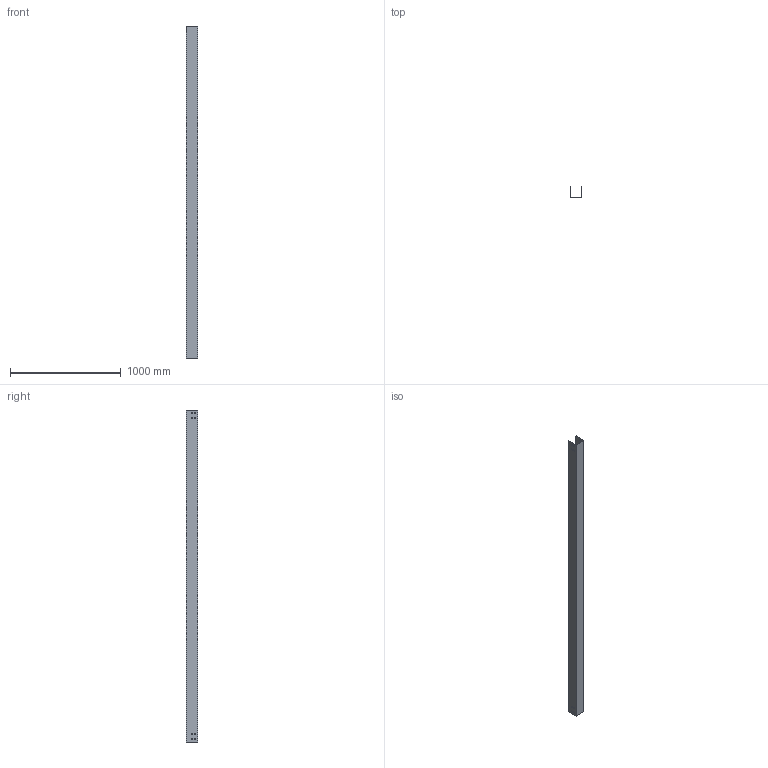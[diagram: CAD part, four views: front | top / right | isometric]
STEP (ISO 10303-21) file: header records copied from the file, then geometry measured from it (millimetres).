
FILE_DESCRIPTION (( 'STEP AP214' ), '1' );
FILE_NAME ('CC_101.step', '2025-07-16T09:03:45', ( '' ), ( '' ), 'SwSTEP 2.0', 'SolidWorks 2023', '' );
FILE_SCHEMA (( 'AUTOMOTIVE_DESIGN' ));
Length unit declared in the file: millimetre
Products named in the file (1): CC_101
Bounding box: 100 x 100 x 3000 mm (x, y, z)
Volume: 1334820 mm3; surface area: 1790467 mm2
Topology: 1 solids, 1 shells, 74 faces, 216 edges, 144 vertices
Faces by surface type: plane 74
Entity records: 2487 total; most frequent: CARTESIAN_POINT 435, ORIENTED_EDGE 432, DIRECTION 366, EDGE_CURVE 216, LINE 216, VECTOR 216, VERTEX_POINT 144, EDGE_LOOP 106
